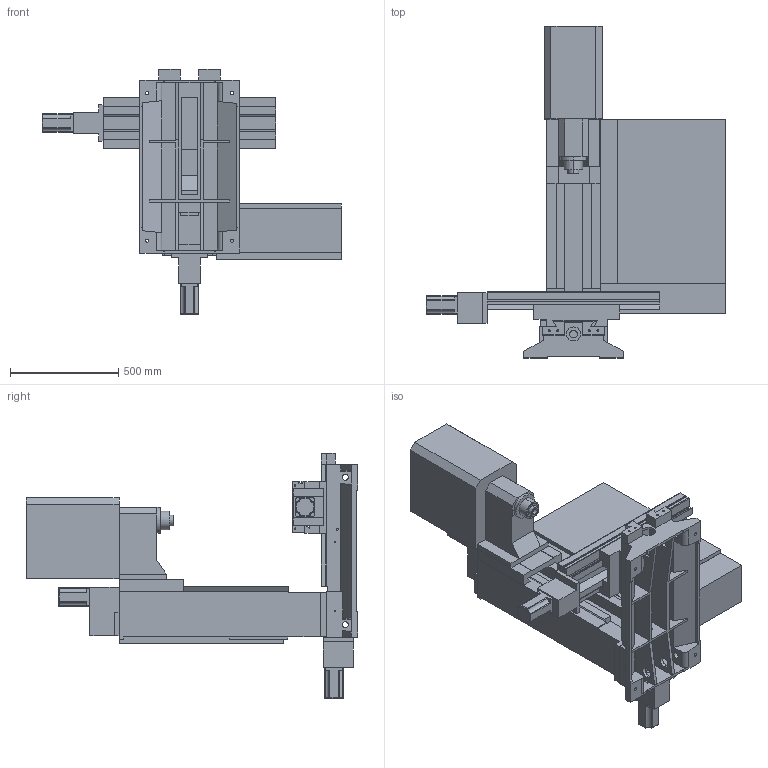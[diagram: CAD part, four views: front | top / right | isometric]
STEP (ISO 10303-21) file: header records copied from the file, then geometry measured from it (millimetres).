
FILE_DESCRIPTION (( 'STEP AP214' ), '1' );
FILE_NAME ('32085_PCNC_1100_MACHINE.STEP', '2014-12-16T15:23:42', ( '' ), ( '' ), 'SwSTEP 2.0', 'SolidWorks 2012', '' );
FILE_SCHEMA (( 'AUTOMOTIVE_DESIGN' ));
Length unit declared in the file: millimetre
Products named in the file (15): AXIS MOTOR; 1100 y-axis gearbox; 1100 z-axis gearbox; 1100 ELC CABINET; 1100 SPINDLE GUARD; 1100 SPINDLE HOUSING; Z-AXIS SADDLE; 1100 COLUMN; 712.1-09???___; 1100 BASE- X-AXIS; X-Y BASE ASSY___; X-Y BASE EXTENSION; X-Y BASE___; 32085_PCNC_1100_MACHINE; 1100 SPINDLE
Assembly tree (18 placements, depth 3):
  32085_PCNC_1100_MACHINE
    X-Y BASE ASSY___
      X-Y BASE___
      X-Y BASE EXTENSION  x2
    1100 BASE- X-AXIS
    712.1-09???___
    1100 COLUMN
    Z-AXIS SADDLE
    1100 SPINDLE HOUSING
    1100 SPINDLE GUARD
    1100 ELC CABINET
    1100 z-axis gearbox
    1100 y-axis gearbox  x2
    AXIS MOTOR  x3
    1100 SPINDLE
Bounding box: 1387 x 1535 x 1134 mm (x, y, z)
Volume: 269698274.6 mm3; surface area: 8902732.1 mm2
Topology: 19 solids, 19 shells, 715 faces, 1882 edges, 1187 vertices
Faces by surface type: plane 431, cylinder 206, cone 42, bspline 36
Entity records: 19762 total; most frequent: CARTESIAN_POINT 3476, ORIENTED_EDGE 3156, DIRECTION 3114, EDGE_CURVE 1578, LINE 1220, VECTOR 1220, VERTEX_POINT 1029, AXIS2_PLACEMENT_3D 947
